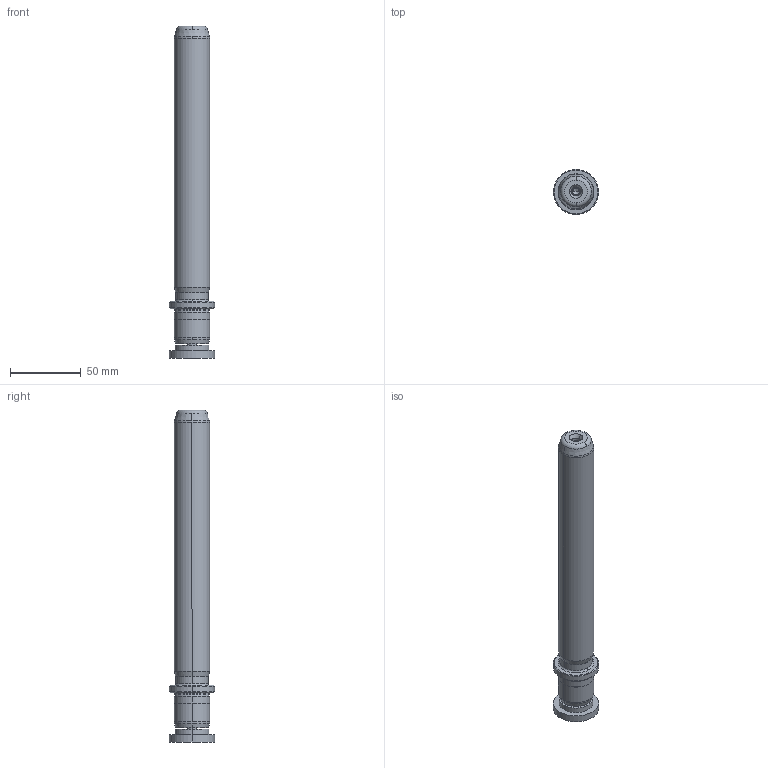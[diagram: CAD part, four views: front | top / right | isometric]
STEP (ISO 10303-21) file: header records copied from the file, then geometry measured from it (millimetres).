
FILE_DESCRIPTION((''),'2;1');
FILE_NAME('P22_025_200.stp','2009-02-02T15:38:05',(''),(''),'Mechanical Desktop 2009','Mechanical Desktop 2009',', , ');
FILE_SCHEMA(('CONFIG_CONTROL_DESIGN'));
Length unit declared in the file: millimetre
Products named in the file (2): Product; blmdl1
Assembly tree (1 placements, depth 2):
  Product
    blmdl1
Bounding box: 32 x 32 x 235 mm (x, y, z)
Volume: 115338.3 mm3; surface area: 22984 mm2
Topology: 3 solids, 3 shells, 99 faces, 237 edges, 149 vertices
Faces by surface type: cylinder 32, cone 28, plane 19, torus 10, bspline 10
Entity records: 3419 total; most frequent: CARTESIAN_POINT 923, DIRECTION 570, ORIENTED_EDGE 466, AXIS2_PLACEMENT_3D 246, EDGE_CURVE 233, CIRCLE 155, VERTEX_POINT 149, EDGE_LOOP 110
